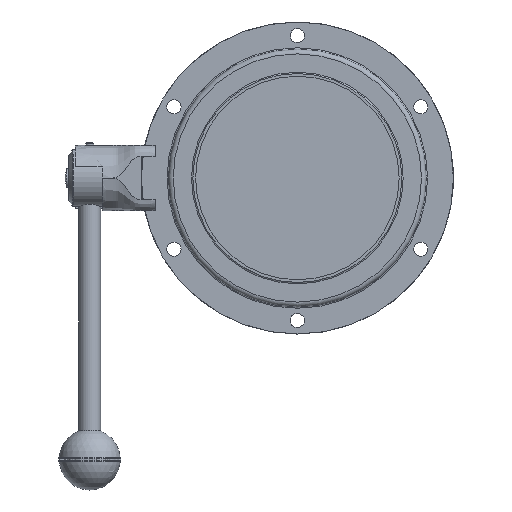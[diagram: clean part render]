
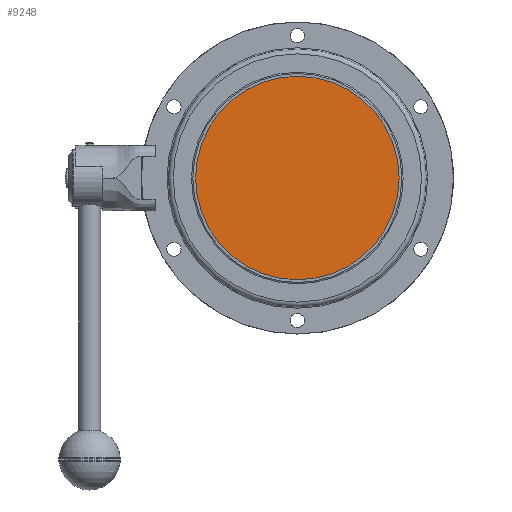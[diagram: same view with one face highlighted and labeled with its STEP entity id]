
A CAD part, left-side view. The second image highlights one B-rep face of the part: STEP entity #9248.
In plain terms, the highlighted planar face has unit normal (-1, 0, 0) as drawn and (1, 0, 0) by its records, which use the part's own axes.
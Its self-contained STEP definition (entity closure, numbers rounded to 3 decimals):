
#998=PLANE('',#10581);
#1537=FACE_OUTER_BOUND('',#2198,.T.);
#2198=EDGE_LOOP('',(#8630));
#3782=CIRCLE('',#10582,75.);
#4674=VERTEX_POINT('',#30264);
#5999=EDGE_CURVE('',#4674,#4674,#3782,.T.);
#8630=ORIENTED_EDGE('',*,*,#5999,.T.);
#9248=ADVANCED_FACE('',(#1537),#998,.T.);
#10581=AXIS2_PLACEMENT_3D('',#30263,#13376,#13377);
#10582=AXIS2_PLACEMENT_3D('',#30265,#13378,#13379);
#13376=DIRECTION('center_axis',(1.,0.,0.));
#13377=DIRECTION('ref_axis',(0.,0.,-1.));
#13378=DIRECTION('center_axis',(1.,0.,0.));
#13379=DIRECTION('ref_axis',(0.,0.,-1.));
#30263=CARTESIAN_POINT('Origin',(11.5,0.,0.));
#30264=CARTESIAN_POINT('',(11.5,-75.,0.));
#30265=CARTESIAN_POINT('Origin',(11.5,0.,0.));
